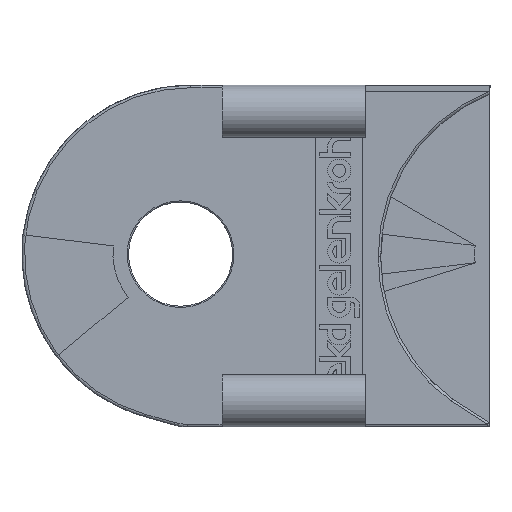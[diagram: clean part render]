
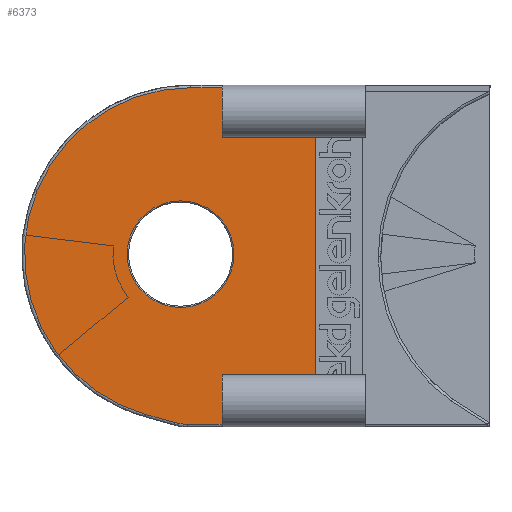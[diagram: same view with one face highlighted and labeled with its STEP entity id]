
A CAD part, left-side view. The second image highlights one B-rep face of the part: STEP entity #6373.
In plain terms, the highlighted free-form (B-spline) face has degree [1, 1] with [2, 2] control points.
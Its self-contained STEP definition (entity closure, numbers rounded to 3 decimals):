
#394=CARTESIAN_POINT('',(140.837,195.168,205.528));
#395=VERTEX_POINT('',#394);
#402=CARTESIAN_POINT('',(158.874,195.168,205.528));
#403=VERTEX_POINT('',#402);
#404=CARTESIAN_POINT('',(158.874,195.168,205.528));
#405=DIRECTION('',(-1.0,0.0,0.0));
#406=VECTOR('',#405,18.038);
#407=LINE('',#404,#406);
#408=EDGE_CURVE('',#403,#395,#407,.T.);
#525=CARTESIAN_POINT('',(158.874,149.468,205.528));
#526=VERTEX_POINT('',#525);
#533=CARTESIAN_POINT('',(140.837,149.468,205.528));
#534=VERTEX_POINT('',#533);
#535=CARTESIAN_POINT('',(140.837,149.468,205.528));
#536=DIRECTION('',(1.0,0.0,0.0));
#537=VECTOR('',#536,18.038);
#538=LINE('',#535,#537);
#539=EDGE_CURVE('',#534,#526,#538,.T.);
#1239=CARTESIAN_POINT('',(158.874,204.668,205.528));
#1240=VERTEX_POINT('',#1239);
#1241=CARTESIAN_POINT('',(158.874,204.668,205.528));
#1242=DIRECTION('',(0.0,-1.0,0.0));
#1243=VECTOR('',#1242,9.5);
#1244=LINE('',#1241,#1243);
#1245=EDGE_CURVE('',#1240,#403,#1244,.T.);
#1403=CARTESIAN_POINT('',(158.874,139.968,205.528));
#1404=VERTEX_POINT('',#1403);
#1412=CARTESIAN_POINT('',(158.874,149.468,205.528));
#1413=DIRECTION('',(0.0,-1.0,0.));
#1414=VECTOR('',#1413,9.5);
#1415=LINE('',#1412,#1414);
#1416=EDGE_CURVE('',#526,#1404,#1415,.T.);
#1500=CARTESIAN_POINT('',(165.456,204.668,205.528));
#1501=VERTEX_POINT('',#1500);
#1502=CARTESIAN_POINT('',(165.456,204.668,205.528));
#1503=DIRECTION('',(-1.0,0.,0.));
#1504=VECTOR('',#1503,6.582);
#1505=LINE('',#1502,#1504);
#1506=EDGE_CURVE('',#1501,#1240,#1505,.T.);
#1851=CARTESIAN_POINT('',(164.837,139.968,205.528));
#1852=VERTEX_POINT('',#1851);
#1860=CARTESIAN_POINT('',(158.874,139.968,205.528));
#1861=DIRECTION('',(1.0,0.,0.));
#1862=VECTOR('',#1861,5.962);
#1863=LINE('',#1860,#1862);
#1864=EDGE_CURVE('',#1404,#1852,#1863,.T.);
#6004=CARTESIAN_POINT('',(140.837,195.168,205.528));
#6005=DIRECTION('',(0.,-1.0,0.));
#6006=VECTOR('',#6005,45.7);
#6007=LINE('',#6004,#6006);
#6008=EDGE_CURVE('',#395,#534,#6007,.T.);
#6324=CARTESIAN_POINT('',(140.837,204.668,205.528));
#6325=CARTESIAN_POINT('',(196.837,204.668,205.528));
#6326=CARTESIAN_POINT('',(140.837,139.968,205.528));
#6327=CARTESIAN_POINT('',(196.837,139.968,205.528));
#6328=B_SPLINE_SURFACE_WITH_KNOTS('',1,1,((#6324,#6326),(#6325,#6327)),.UNSPECIFIED.,.F.,.F.,.U.,(2,2),(2,2),(0.0,56.),(0.0,64.7),.UNSPECIFIED.);
#6329=ORIENTED_EDGE('',*,*,#408,.T.);
#6330=ORIENTED_EDGE('',*,*,#6008,.T.);
#6331=ORIENTED_EDGE('',*,*,#539,.T.);
#6332=ORIENTED_EDGE('',*,*,#1416,.T.);
#6333=ORIENTED_EDGE('',*,*,#1864,.T.);
#6334=CARTESIAN_POINT('',(173.507,202.771,205.528));
#6335=VERTEX_POINT('',#6334);
#6336=CARTESIAN_POINT('',(164.837,171.968,205.528));
#6337=DIRECTION('',(0.,0.,1.0));
#6338=DIRECTION('',(0.991,-0.137,0.));
#6339=AXIS2_PLACEMENT_3D('',#6336,#6337,#6338);
#6340=CIRCLE('',#6339,32.);
#6341=EDGE_CURVE('',#1852,#6335,#6340,.T.);
#6342=ORIENTED_EDGE('',*,*,#6341,.T.);
#6343=CARTESIAN_POINT('',(168.03,204.313,205.528));
#6344=VERTEX_POINT('',#6343);
#6345=CARTESIAN_POINT('',(173.507,202.771,205.528));
#6346=DIRECTION('',(-0.963,0.271,0.0));
#6347=VECTOR('',#6346,5.69);
#6348=LINE('',#6345,#6347);
#6349=EDGE_CURVE('',#6335,#6344,#6348,.T.);
#6350=ORIENTED_EDGE('',*,*,#6349,.T.);
#6351=CARTESIAN_POINT('',(165.456,195.168,205.528));
#6352=DIRECTION('',(0.,0.,1.));
#6353=DIRECTION('',(0.137,0.991,0.));
#6354=AXIS2_PLACEMENT_3D('',#6351,#6352,#6353);
#6355=CIRCLE('',#6354,9.5);
#6356=EDGE_CURVE('',#6344,#1501,#6355,.T.);
#6357=ORIENTED_EDGE('',*,*,#6356,.T.);
#6358=ORIENTED_EDGE('',*,*,#1506,.T.);
#6359=ORIENTED_EDGE('',*,*,#1245,.T.);
#6360=EDGE_LOOP('',(#6329,#6330,#6331,#6332,#6333,#6342,#6350,#6357,#6358,#6359));
#6361=FACE_OUTER_BOUND('',#6360,.T.);
#6362=CARTESIAN_POINT('',(177.087,171.968,205.528));
#6363=VERTEX_POINT('',#6362);
#6364=CARTESIAN_POINT('',(166.837,171.968,205.528));
#6365=DIRECTION('',(0.0,0.0,-1.0));
#6366=DIRECTION('',(-1.0,0.0,0.0));
#6367=AXIS2_PLACEMENT_3D('',#6364,#6365,#6366);
#6368=CIRCLE('',#6367,10.25);
#6369=EDGE_CURVE('',#6363,#6363,#6368,.T.);
#6370=ORIENTED_EDGE('',*,*,#6369,.T.);
#6371=EDGE_LOOP('',(#6370));
#6372=FACE_BOUND('',#6371,.T.);
#6373=ADVANCED_FACE('',(#6361,#6372),#6328,.F.);
